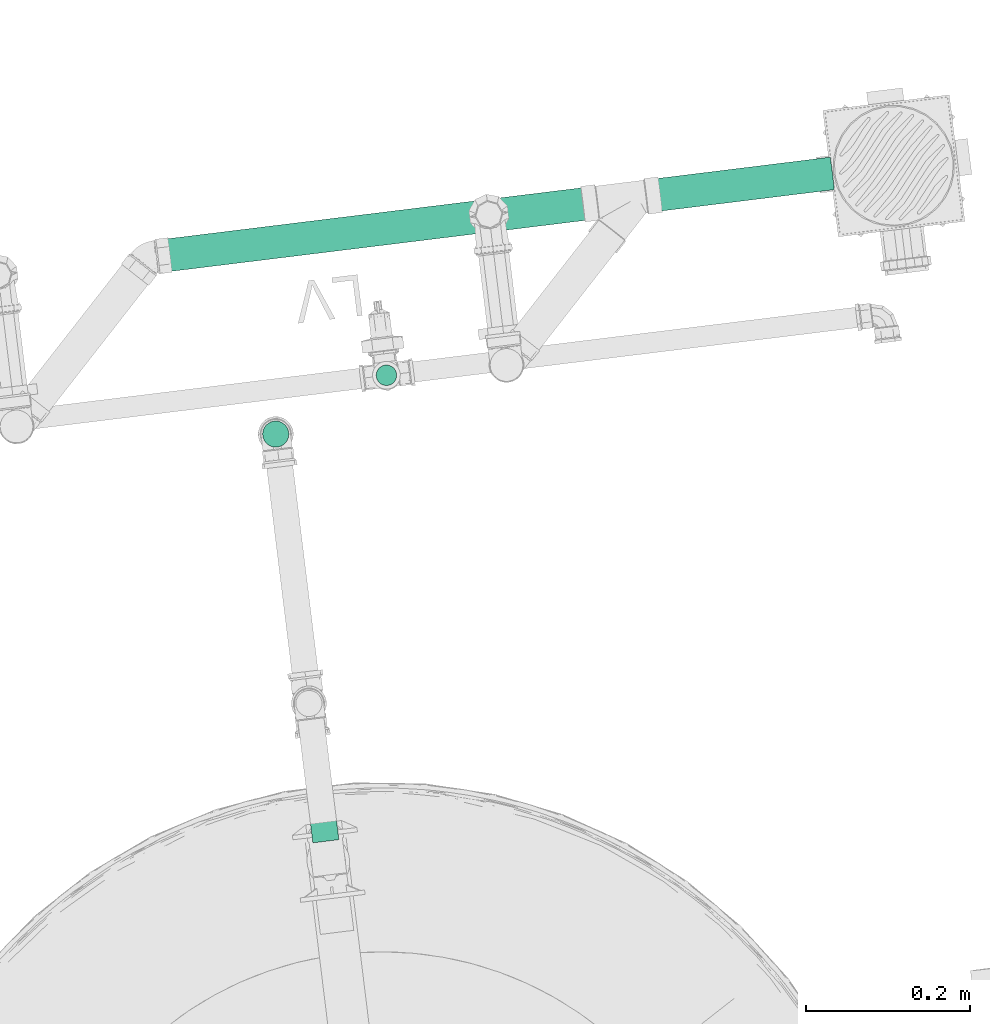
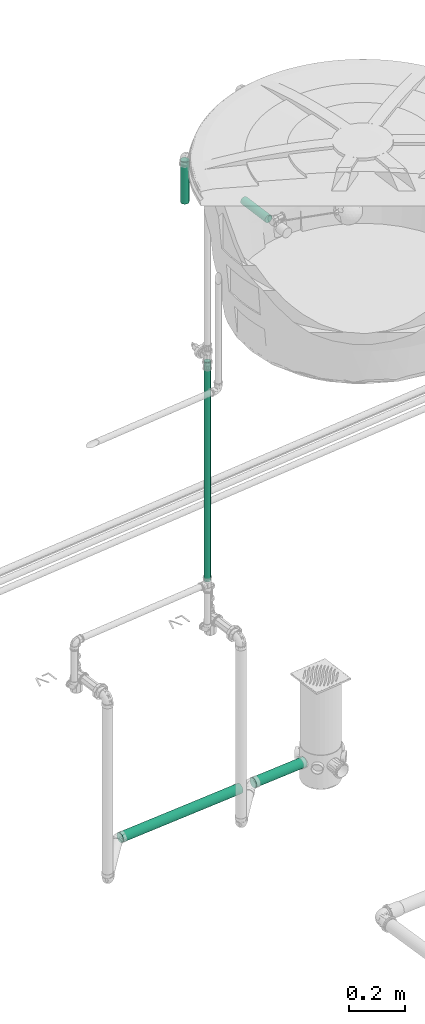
# One storey, part 53 of 97: 5 flow segments.
"""IFC2X3 building model written with IfcOpenShell, lengths in centimetres."""

from ifc_helpers import new_model, entity, si_unit, converted_unit, derived_unit, direction, frame, frame_2d, origin, origin_2d_with_axis, place, context, subcontext, project, spatial, circle, extrude, type_object, element, save


model = new_model("IFC2X3")

# Units and contexts
model_context = context("Model", 3, precision=0.001, world=origin(), true_north=direction((6.12303176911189e-17, 1.0)))
body_context = subcontext(model_context, "Body", "Model", "MODEL_VIEW")
ifc_project = project(units=[si_unit("LENGTHUNIT", "METRE", prefix="CENTI"), si_unit("AREAUNIT", "SQUARE_METRE"), si_unit("VOLUMEUNIT", "CUBIC_METRE"), converted_unit("PLANEANGLEUNIT", "DEGREE", entity("IfcRatioMeasure", 0.0174532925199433), si_unit("PLANEANGLEUNIT", "RADIAN"), dimensions=[0, 0, 0, 0, 0, 0, 0]), si_unit("MASSUNIT", "GRAM", prefix="KILO"), derived_unit("MASSDENSITYUNIT", [(si_unit("MASSUNIT", "GRAM", prefix="KILO"), 1), (si_unit("LENGTHUNIT", "METRE"), -3)]), derived_unit("MOMENTOFINERTIAUNIT", [(si_unit("LENGTHUNIT", "METRE"), 4)]), si_unit("TIMEUNIT", "SECOND"), si_unit("FREQUENCYUNIT", "HERTZ"), si_unit("THERMODYNAMICTEMPERATUREUNIT", "DEGREE_CELSIUS"), derived_unit("THERMALTRANSMITTANCEUNIT", [(si_unit("MASSUNIT", "GRAM", prefix="KILO"), 1), (si_unit("THERMODYNAMICTEMPERATUREUNIT", "KELVIN"), -1), (si_unit("TIMEUNIT", "SECOND"), -3)]), derived_unit("VOLUMETRICFLOWRATEUNIT", [(si_unit("LENGTHUNIT", "METRE"), 3), (si_unit("TIMEUNIT", "SECOND"), -1)]), si_unit("ELECTRICCURRENTUNIT", "AMPERE"), si_unit("ELECTRICVOLTAGEUNIT", "VOLT"), si_unit("POWERUNIT", "WATT"), si_unit("FORCEUNIT", "NEWTON", prefix="KILO"), si_unit("ILLUMINANCEUNIT", "LUX"), si_unit("LUMINOUSFLUXUNIT", "LUMEN"), si_unit("LUMINOUSINTENSITYUNIT", "CANDELA"), derived_unit("USERDEFINED", [(si_unit("MASSUNIT", "GRAM", prefix="KILO"), -1), (si_unit("LENGTHUNIT", "METRE"), -2), (si_unit("TIMEUNIT", "SECOND"), 3), (si_unit("LUMINOUSFLUXUNIT", "LUMEN"), 1)]), derived_unit("LINEARVELOCITYUNIT", [(si_unit("LENGTHUNIT", "METRE"), 1), (si_unit("TIMEUNIT", "SECOND"), -1)]), si_unit("PRESSUREUNIT", "PASCAL"), derived_unit("USERDEFINED", [(si_unit("LENGTHUNIT", "METRE"), -2), (si_unit("MASSUNIT", "GRAM", prefix="KILO"), 1), (si_unit("TIMEUNIT", "SECOND"), -2)]), derived_unit("LINEARFORCEUNIT", [(si_unit("MASSUNIT", "GRAM", prefix="KILO"), 1), (si_unit("LENGTHUNIT", "METRE"), 1), (si_unit("TIMEUNIT", "SECOND"), -2), (si_unit("LENGTHUNIT", "METRE"), -1)]), derived_unit("PLANARFORCEUNIT", [(si_unit("MASSUNIT", "GRAM", prefix="KILO"), 1), (si_unit("LENGTHUNIT", "METRE"), 1), (si_unit("TIMEUNIT", "SECOND"), -2), (si_unit("LENGTHUNIT", "METRE"), -2)])], contexts=[model_context])

# Site, building, storey
site_placement = place(None, origin())
site = spatial("IfcSite", under=ifc_project, at=site_placement, Name="Default", CompositionType="ELEMENT")
building_placement = place(site_placement, origin())
building = spatial("IfcBuilding", under=site, at=building_placement, Name="HIDROSSANITÁRIO", CompositionType="ELEMENT")
storey_placement = place(building_placement, frame((0.0, 0.0, -260.0)))
storey = spatial("IfcBuildingStorey", under=building, at=storey_placement, Name="TÉRREO-HID", CompositionType="ELEMENT", Elevation=-260.0)

# Flow segments
pipe_segment_type_1 = type_object("IfcPipeSegmentType", Name="Tipos de tubos:Tubo Marrom - Água Fria - Soldável", PredefinedType="NOTDEFINED")
flow_segment_1_placement = place(storey_placement, origin())
element("IfcFlowSegment", 1, at=flow_segment_1_placement, inside=storey, type_object=pipe_segment_type_1, Name="Tipos de tubos:Tubo Marrom - Água Fria - Soldável", ObjectType="Tipos de tubos:Tubo Marrom - Água Fria - Soldável", context=body_context, shape_type="SweptSolid", body=[
    extrude(circle(Radius=1.25, at=origin_2d_with_axis()), frame((-1655.06244479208, 3152.17622329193, 81.59), z_axis=(0.0, 0.0, 1.0), x_axis=(-1.0, 0.0, 0.0)), (0.0, 0.0, 1.0), 96.41),
])
flow_segment_2_placement = place(storey_placement, origin())
element("IfcFlowSegment", 2, at=flow_segment_2_placement, inside=storey, type_object=pipe_segment_type_1, Name="Tipos de tubos:Tubo Marrom - Água Fria - Soldável", ObjectType="Tipos de tubos:Tubo Marrom - Água Fria - Soldável", context=body_context, shape_type="SweptSolid", body=[
    extrude(circle(Radius=1.6, at=frame_2d((5.88118396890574e-43, -1.69197988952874e-14), x_axis=(1.0, 0.0))), frame((-1662.44959495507, 3095.34578183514, 277.388627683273), z_axis=(-0.122152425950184, 0.992511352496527, 0.0), x_axis=(-0.992511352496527, -0.122152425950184, 0.0)), (0.0, 0.0, 1.0), 14.6349295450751),
])
flow_segment_3_placement = place(storey_placement, origin())
element("IfcFlowSegment", 3, at=flow_segment_3_placement, inside=storey, type_object=pipe_segment_type_1, Name="Tipos de tubos:Tubo Marrom - Água Fria - Soldável", ObjectType="Tipos de tubos:Tubo Marrom - Água Fria - Soldável", context=body_context, shape_type="SweptSolid", body=[
    extrude(circle(Radius=1.6, at=origin_2d_with_axis()), frame((-1668.56098354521, 3144.9984513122, 256.95), z_axis=(0.0, 0.0, 1.0), x_axis=(-1.0, 0.0, 0.0)), (0.0, 0.0, 1.0), 18.488627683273),
])
pipe_segment_type_2 = type_object("IfcPipeSegmentType", Name="Tipos de tubos:Tubo - Esgoto - Série Normal", PredefinedType="NOTDEFINED")
flow_segment_4_placement = place(storey_placement, origin())
element("IfcFlowSegment", 4, at=flow_segment_4_placement, inside=storey, type_object=pipe_segment_type_2, Name="Tipos de tubos:Tubo - Esgoto - Série Normal", ObjectType="Tipos de tubos:Tubo - Esgoto - Série Normal", context=body_context, shape_type="SweptSolid", body=[
    extrude(circle(Radius=2.0, at=frame_2d((-2.6454969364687e-14, 4.29903167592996e-15), x_axis=(1.0, 0.0))), frame((-1682.95720663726, 3166.66521149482, -30.5405089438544), z_axis=(0.992312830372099, 0.122127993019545, -0.0199999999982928), x_axis=(-0.122152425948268, 0.992511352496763, 0.0)), (0.0, 0.0, 1.0), 53.9481010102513),
])
flow_segment_5_placement = place(storey_placement, origin())
element("IfcFlowSegment", 5, at=flow_segment_5_placement, inside=storey, type_object=pipe_segment_type_2, Name="Tipos de tubos:Tubo - Esgoto - Série Normal", ObjectType="Tipos de tubos:Tubo - Esgoto - Série Normal", context=body_context, shape_type="SweptSolid", body=[
    extrude(circle(Radius=2.0, at=origin_2d_with_axis()), frame((-1623.37073965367, 3173.99876136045, -31.7431759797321), z_axis=(0.992268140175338, 0.122491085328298, -0.0199967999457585), x_axis=(0.122515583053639, -0.992466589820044, 0.0)), (0.0, 0.0, 1.0), 22.8448562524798),
])

save(model, "model.ifc")
